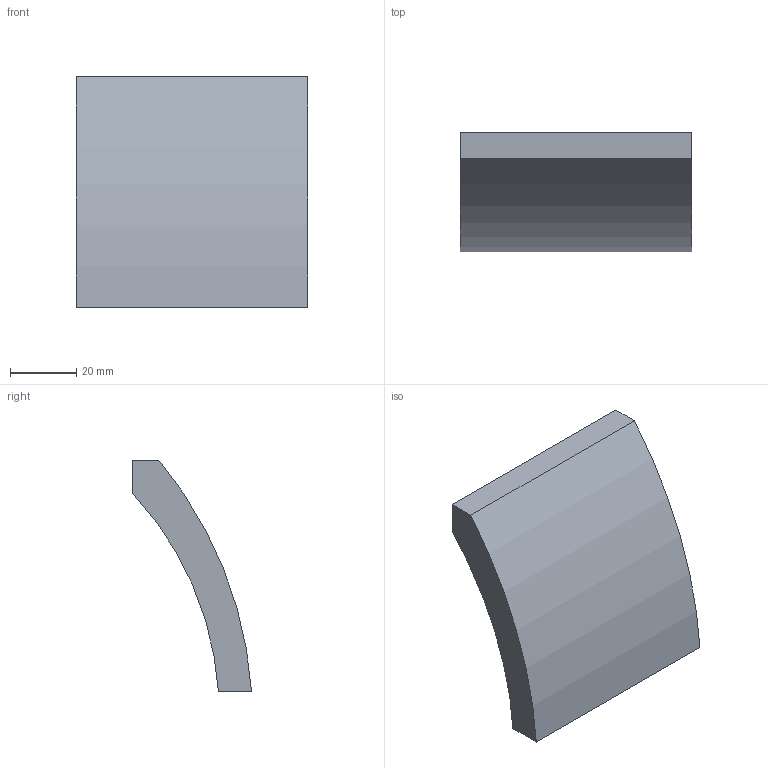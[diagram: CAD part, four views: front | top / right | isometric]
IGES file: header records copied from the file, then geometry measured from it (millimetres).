
Start section: Data from Parasolid IGES Translator 15.0.47, Copyright(c) 2006 Siemens P LM Software. All Rights Reserved.
Global section: file name: 9105789.igs; native system:  By UGS Corp.; preprocessor: XPlus GENERIC/IGES 3.0; author: Noname; organization: Noname; date: 20140122.170939; units: millimetre
Bounding box: 70 x 36 x 70 mm (x, y, z)
Surface area: 13819.2 mm2 (no closed solid volume)
Topology: 0 solids, 0 shells, 11 faces, 42 edges, 40 vertices
Faces by surface type: extrusion 7, revolution 4
